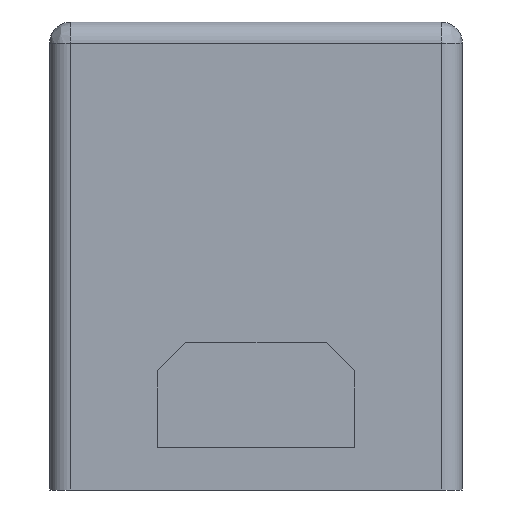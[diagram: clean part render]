
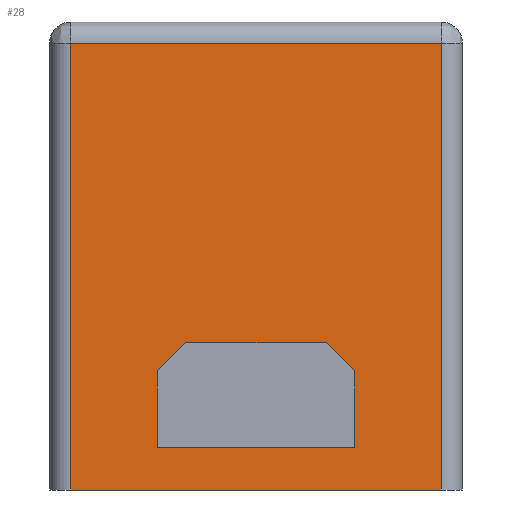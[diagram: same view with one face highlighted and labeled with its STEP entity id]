
A CAD part, front view. The second image highlights one B-rep face of the part: STEP entity #28.
In plain terms, the highlighted planar face has unit normal (0, -1, 0).
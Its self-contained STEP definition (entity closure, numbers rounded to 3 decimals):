
#9 = EDGE_CURVE ( 'NONE', #724, #1445, #152, .T. ) ;
#16 = VERTEX_POINT ( 'NONE', #1206 ) ;
#22 = CARTESIAN_POINT ( 'NONE',  ( 3.475, -15.15, -12.6 ) ) ;
#28 = ADVANCED_FACE ( 'NONE', ( #293, #417 ), #1326, .T. ) ;
#38 = DIRECTION ( 'NONE',  ( 0.707, 0., 0.707 ) ) ;
#48 = CARTESIAN_POINT ( 'NONE',  ( -3.475, -15.15, -16.8 ) ) ;
#64 = CARTESIAN_POINT ( 'NONE',  ( -2.475, -15.15, -11.6 ) ) ;
#79 = VECTOR ( 'NONE', #415, 1000. ) ;
#81 = VECTOR ( 'NONE', #1039, 1000. ) ;
#117 = DIRECTION ( 'NONE',  ( 0., 0., -1. ) ) ;
#127 = CARTESIAN_POINT ( 'NONE',  ( -6.525, -15.15, -1.05 ) ) ;
#152 = LINE ( 'NONE', #1098, #715 ) ;
#161 = EDGE_CURVE ( 'NONE', #1001, #264, #256, .T. ) ;
#186 = DIRECTION ( 'NONE',  ( -1., 0., 0. ) ) ;
#255 = LINE ( 'NONE', #420, #1124 ) ;
#256 = LINE ( 'NONE', #751, #79 ) ;
#264 = VERTEX_POINT ( 'NONE', #22 ) ;
#284 = VERTEX_POINT ( 'NONE', #1239 ) ;
#289 = LINE ( 'NONE', #48, #973 ) ;
#293 = FACE_OUTER_BOUND ( 'NONE', #1103, .T. ) ;
#396 = EDGE_CURVE ( 'NONE', #284, #1072, #992, .T. ) ;
#415 = DIRECTION ( 'NONE',  ( 0.707, 0., -0.707 ) ) ;
#417 = FACE_BOUND ( 'NONE', #1243, .T. ) ;
#420 = CARTESIAN_POINT ( 'NONE',  ( -6.525, -15.15, -15.3 ) ) ;
#466 = EDGE_CURVE ( 'NONE', #16, #284, #289, .T. ) ;
#507 = CARTESIAN_POINT ( 'NONE',  ( -6.525, -15.15, -11.6 ) ) ;
#511 = VERTEX_POINT ( 'NONE', #617 ) ;
#550 = AXIS2_PLACEMENT_3D ( 'NONE', #567, #679, #117 ) ;
#552 = CARTESIAN_POINT ( 'NONE',  ( 3.475, -15.15, -16.8 ) ) ;
#554 = VECTOR ( 'NONE', #610, 1000. ) ;
#567 = CARTESIAN_POINT ( 'NONE',  ( -6.525, -15.15, -16.8 ) ) ;
#610 = DIRECTION ( 'NONE',  ( 0., 0., -1. ) ) ;
#617 = CARTESIAN_POINT ( 'NONE',  ( 3.475, -15.15, -15.3 ) ) ;
#640 = CARTESIAN_POINT ( 'NONE',  ( -6.525, -15.15, -16.8 ) ) ;
#652 = VERTEX_POINT ( 'NONE', #1061 ) ;
#660 = EDGE_CURVE ( 'NONE', #1072, #1001, #1248, .T. ) ;
#679 = DIRECTION ( 'NONE',  ( 0., -1., 0. ) ) ;
#691 = VECTOR ( 'NONE', #1290, 1000. ) ;
#715 = VECTOR ( 'NONE', #833, 1000. ) ;
#724 = VERTEX_POINT ( 'NONE', #127 ) ;
#726 = VECTOR ( 'NONE', #1229, 1000. ) ;
#751 = CARTESIAN_POINT ( 'NONE',  ( 2.475, -15.15, -11.6 ) ) ;
#760 = VERTEX_POINT ( 'NONE', #1253 ) ;
#828 = DIRECTION ( 'NONE',  ( 0., 0., 1. ) ) ;
#833 = DIRECTION ( 'NONE',  ( 0., 0., -1. ) ) ;
#846 = ORIENTED_EDGE ( 'NONE', *, *, #1379, .T. ) ;
#850 = LINE ( 'NONE', #1049, #554 ) ;
#852 = EDGE_CURVE ( 'NONE', #652, #760, #850, .T. ) ;
#881 = DIRECTION ( 'NONE',  ( 0., 0., -1. ) ) ;
#913 = EDGE_CURVE ( 'NONE', #760, #1445, #1076, .T. ) ;
#949 = CARTESIAN_POINT ( 'NONE',  ( 8.003, -15.15, -16.8 ) ) ;
#953 = ORIENTED_EDGE ( 'NONE', *, *, #913, .F. ) ;
#968 = ORIENTED_EDGE ( 'NONE', *, *, #852, .F. ) ;
#973 = VECTOR ( 'NONE', #828, 1000. ) ;
#989 = LINE ( 'NONE', #552, #1023 ) ;
#992 = LINE ( 'NONE', #1376, #1144 ) ;
#1001 = VERTEX_POINT ( 'NONE', #1184 ) ;
#1023 = VECTOR ( 'NONE', #881, 1000. ) ;
#1039 = DIRECTION ( 'NONE',  ( -1., 0., 0. ) ) ;
#1049 = CARTESIAN_POINT ( 'NONE',  ( 6.525, -15.15, -16.8 ) ) ;
#1052 = ORIENTED_EDGE ( 'NONE', *, *, #660, .T. ) ;
#1061 = CARTESIAN_POINT ( 'NONE',  ( 6.525, -15.15, -1.05 ) ) ;
#1072 = VERTEX_POINT ( 'NONE', #64 ) ;
#1076 = LINE ( 'NONE', #949, #81 ) ;
#1091 = ORIENTED_EDGE ( 'NONE', *, *, #161, .T. ) ;
#1098 = CARTESIAN_POINT ( 'NONE',  ( -6.525, -15.15, -16.8 ) ) ;
#1103 = EDGE_LOOP ( 'NONE', ( #953, #968, #1244, #1310 ) ) ;
#1105 = CARTESIAN_POINT ( 'NONE',  ( -6.525, -15.15, -1.05 ) ) ;
#1115 = ORIENTED_EDGE ( 'NONE', *, *, #466, .T. ) ;
#1124 = VECTOR ( 'NONE', #186, 1000. ) ;
#1144 = VECTOR ( 'NONE', #38, 1000. ) ;
#1176 = ORIENTED_EDGE ( 'NONE', *, *, #1199, .T. ) ;
#1184 = CARTESIAN_POINT ( 'NONE',  ( 2.475, -15.15, -11.6 ) ) ;
#1199 = EDGE_CURVE ( 'NONE', #264, #511, #989, .T. ) ;
#1206 = CARTESIAN_POINT ( 'NONE',  ( -3.475, -15.15, -15.3 ) ) ;
#1210 = LINE ( 'NONE', #1105, #726 ) ;
#1217 = EDGE_CURVE ( 'NONE', #652, #724, #1210, .T. ) ;
#1229 = DIRECTION ( 'NONE',  ( -1., 0., 0. ) ) ;
#1239 = CARTESIAN_POINT ( 'NONE',  ( -3.475, -15.15, -12.6 ) ) ;
#1243 = EDGE_LOOP ( 'NONE', ( #1091, #1176, #846, #1115, #1400, #1052 ) ) ;
#1244 = ORIENTED_EDGE ( 'NONE', *, *, #1217, .T. ) ;
#1248 = LINE ( 'NONE', #507, #691 ) ;
#1253 = CARTESIAN_POINT ( 'NONE',  ( 6.525, -15.15, -16.8 ) ) ;
#1290 = DIRECTION ( 'NONE',  ( 1., 0., 0. ) ) ;
#1310 = ORIENTED_EDGE ( 'NONE', *, *, #9, .T. ) ;
#1326 = PLANE ( 'NONE',  #550 ) ;
#1376 = CARTESIAN_POINT ( 'NONE',  ( -3.475, -15.15, -12.6 ) ) ;
#1379 = EDGE_CURVE ( 'NONE', #511, #16, #255, .T. ) ;
#1400 = ORIENTED_EDGE ( 'NONE', *, *, #396, .T. ) ;
#1445 = VERTEX_POINT ( 'NONE', #640 ) ;
